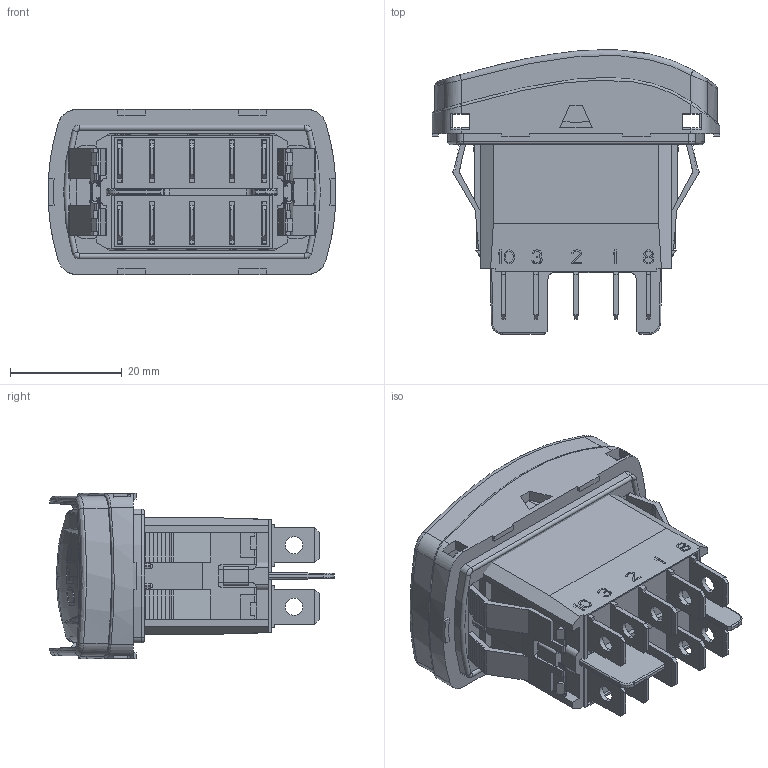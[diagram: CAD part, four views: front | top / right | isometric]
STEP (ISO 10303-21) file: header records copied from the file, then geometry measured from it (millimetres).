
FILE_DESCRIPTION((''),'2;1');
FILE_NAME('KH147CAZSSG22N01XX02_SW0001','2019-04-10T',('vdelort'),(''),'CREO PARAMETRIC BY PTC INC, 2015380','CREO PARAMETRIC BY PTC INC, 2015380','');
FILE_SCHEMA(('CONFIG_CONTROL_DESIGN'));
Products named in the file (1): KH147CAZSSG22N01XX02_SW0001
Bounding box: 51.58 x 50.98 x 29.6 mm (x, y, z)
Surface area: 27607.2 mm2 (no closed solid volume)
Topology: 0 solids, 25 shells, 1755 faces, 5896 edges, 4096 vertices
Faces by surface type: plane 1259, cylinder 320, bspline 102, torus 28, cone 28, extrusion 14, sphere 4
Entity records: 73274 total; most frequent: CARTESIAN_POINT 23410, ORIENTED_EDGE 10650, DIRECTION 9211, EDGE_CURVE 5892, VECTOR 4511, LINE 4497, VERTEX_POINT 4096, AXIS2_PLACEMENT_3D 2350
